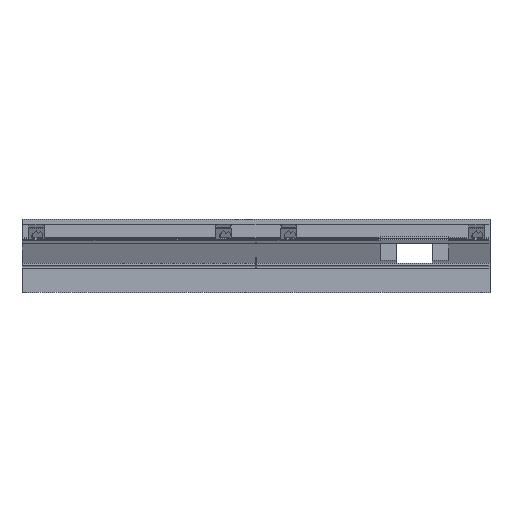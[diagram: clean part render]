
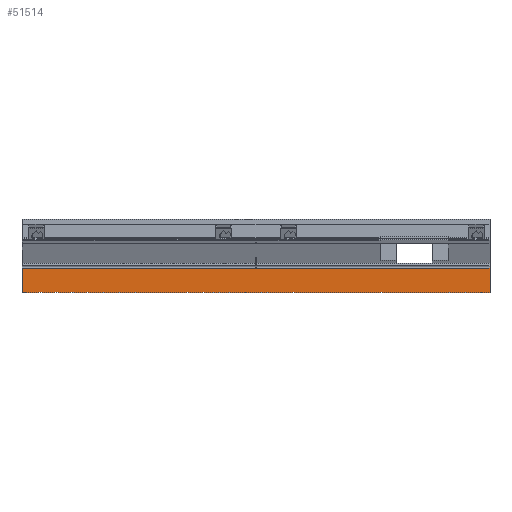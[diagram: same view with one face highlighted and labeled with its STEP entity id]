
A CAD part, front view. The second image highlights one B-rep face of the part: STEP entity #51514.
In plain terms, the highlighted planar face has unit normal (0, -1, 0).
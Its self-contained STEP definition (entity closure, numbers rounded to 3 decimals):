
#32 = PLANE('',#33);
#33 = AXIS2_PLACEMENT_3D('',#34,#35,#36);
#34 = CARTESIAN_POINT('',(-117.,101.,3.));
#35 = DIRECTION('',(1.,0.,-0.));
#36 = DIRECTION('',(0.,0.,1.));
#673 = VERTEX_POINT('',#674);
#674 = CARTESIAN_POINT('',(-117.,158.5,12.198));
#688 = PLANE('',#689);
#689 = AXIS2_PLACEMENT_3D('',#690,#691,#692);
#690 = CARTESIAN_POINT('',(-126.,155.33,10.719));
#691 = DIRECTION('',(0.,-0.423,0.906));
#692 = DIRECTION('',(0.,0.906,0.423));
#700 = EDGE_CURVE('',#701,#673,#703,.T.);
#701 = VERTEX_POINT('',#702);
#702 = CARTESIAN_POINT('',(-117.,158.5,0.));
#703 = SURFACE_CURVE('',#704,(#708,#715),.PCURVE_S1.);
#704 = LINE('',#705,#706);
#705 = CARTESIAN_POINT('',(-117.,158.5,0.));
#706 = VECTOR('',#707,1.);
#707 = DIRECTION('',(0.,0.,1.));
#708 = PCURVE('',#32,#709);
#709 = DEFINITIONAL_REPRESENTATION('',(#710),#714);
#710 = LINE('',#711,#712);
#711 = CARTESIAN_POINT('',(-3.,-57.5));
#712 = VECTOR('',#713,1.);
#713 = DIRECTION('',(1.,0.));
#714 = ( GEOMETRIC_REPRESENTATION_CONTEXT(2) 
PARAMETRIC_REPRESENTATION_CONTEXT() REPRESENTATION_CONTEXT('2D SPACE',''
  ) );
#715 = PCURVE('',#716,#721);
#716 = PLANE('',#717);
#717 = AXIS2_PLACEMENT_3D('',#718,#719,#720);
#718 = CARTESIAN_POINT('',(168.,158.5,3.));
#719 = DIRECTION('',(0.,-1.,0.));
#720 = DIRECTION('',(-1.,0.,0.));
#721 = DEFINITIONAL_REPRESENTATION('',(#722),#726);
#722 = LINE('',#723,#724);
#723 = CARTESIAN_POINT('',(285.,3.));
#724 = VECTOR('',#725,1.);
#725 = DIRECTION('',(0.,-1.));
#726 = ( GEOMETRIC_REPRESENTATION_CONTEXT(2) 
PARAMETRIC_REPRESENTATION_CONTEXT() REPRESENTATION_CONTEXT('2D SPACE',''
  ) );
#744 = PLANE('',#745);
#745 = AXIS2_PLACEMENT_3D('',#746,#747,#748);
#746 = CARTESIAN_POINT('',(0.,0.,0.));
#747 = DIRECTION('',(0.,0.,1.));
#748 = DIRECTION('',(1.,0.,-0.));
#936 = PLANE('',#937);
#937 = AXIS2_PLACEMENT_3D('',#938,#939,#940);
#938 = CARTESIAN_POINT('',(117.,101.,3.));
#939 = DIRECTION('',(1.,0.,-0.));
#940 = DIRECTION('',(0.,0.,1.));
#1614 = VERTEX_POINT('',#1615);
#1615 = CARTESIAN_POINT('',(117.,158.5,12.198));
#1629 = PLANE('',#1630);
#1630 = AXIS2_PLACEMENT_3D('',#1631,#1632,#1633);
#1631 = CARTESIAN_POINT('',(0.15,155.33,10.719));
#1632 = DIRECTION('',(0.,-0.423,0.906));
#1633 = DIRECTION('',(0.,0.906,0.423));
#1641 = EDGE_CURVE('',#1642,#1614,#1644,.T.);
#1642 = VERTEX_POINT('',#1643);
#1643 = CARTESIAN_POINT('',(117.,158.5,0.));
#1644 = SURFACE_CURVE('',#1645,(#1649,#1656),.PCURVE_S1.);
#1645 = LINE('',#1646,#1647);
#1646 = CARTESIAN_POINT('',(117.,158.5,0.));
#1647 = VECTOR('',#1648,1.);
#1648 = DIRECTION('',(0.,0.,1.));
#1649 = PCURVE('',#936,#1650);
#1650 = DEFINITIONAL_REPRESENTATION('',(#1651),#1655);
#1651 = LINE('',#1652,#1653);
#1652 = CARTESIAN_POINT('',(-3.,-57.5));
#1653 = VECTOR('',#1654,1.);
#1654 = DIRECTION('',(1.,0.));
#1655 = ( GEOMETRIC_REPRESENTATION_CONTEXT(2) 
PARAMETRIC_REPRESENTATION_CONTEXT() REPRESENTATION_CONTEXT('2D SPACE',''
  ) );
#1656 = PCURVE('',#716,#1657);
#1657 = DEFINITIONAL_REPRESENTATION('',(#1658),#1662);
#1658 = LINE('',#1659,#1660);
#1659 = CARTESIAN_POINT('',(51.,3.));
#1660 = VECTOR('',#1661,1.);
#1661 = DIRECTION('',(0.,-1.));
#1662 = ( GEOMETRIC_REPRESENTATION_CONTEXT(2) 
PARAMETRIC_REPRESENTATION_CONTEXT() REPRESENTATION_CONTEXT('2D SPACE',''
  ) );
#2040 = VERTEX_POINT('',#2041);
#2041 = CARTESIAN_POINT('',(0.15,158.5,12.198));
#2055 = PLANE('',#2056);
#2056 = AXIS2_PLACEMENT_3D('',#2057,#2058,#2059);
#2057 = CARTESIAN_POINT('',(0.15,163.532,14.544));
#2058 = DIRECTION('',(-1.,-0.,0.));
#2059 = DIRECTION('',(0.,-1.,-0.019));
#2067 = EDGE_CURVE('',#1614,#2040,#2068,.T.);
#2068 = SURFACE_CURVE('',#2069,(#2073,#2080),.PCURVE_S1.);
#2069 = LINE('',#2070,#2071);
#2070 = CARTESIAN_POINT('',(84.075,158.5,12.198));
#2071 = VECTOR('',#2072,1.);
#2072 = DIRECTION('',(-1.,0.,0.));
#2073 = PCURVE('',#1629,#2074);
#2074 = DEFINITIONAL_REPRESENTATION('',(#2075),#2079);
#2075 = LINE('',#2076,#2077);
#2076 = CARTESIAN_POINT('',(3.498,-83.925));
#2077 = VECTOR('',#2078,1.);
#2078 = DIRECTION('',(0.,1.));
#2079 = ( GEOMETRIC_REPRESENTATION_CONTEXT(2) 
PARAMETRIC_REPRESENTATION_CONTEXT() REPRESENTATION_CONTEXT('2D SPACE',''
  ) );
#2080 = PCURVE('',#716,#2081);
#2081 = DEFINITIONAL_REPRESENTATION('',(#2082),#2086);
#2082 = LINE('',#2083,#2084);
#2083 = CARTESIAN_POINT('',(83.925,-9.198));
#2084 = VECTOR('',#2085,1.);
#2085 = DIRECTION('',(1.,0.));
#2086 = ( GEOMETRIC_REPRESENTATION_CONTEXT(2) 
PARAMETRIC_REPRESENTATION_CONTEXT() REPRESENTATION_CONTEXT('2D SPACE',''
  ) );
#2212 = EDGE_CURVE('',#2213,#2040,#2215,.T.);
#2213 = VERTEX_POINT('',#2214);
#2214 = CARTESIAN_POINT('',(0.15,158.5,12.693));
#2215 = SURFACE_CURVE('',#2216,(#2220,#2227),.PCURVE_S1.);
#2216 = LINE('',#2217,#2218);
#2217 = CARTESIAN_POINT('',(0.15,158.5,8.772));
#2218 = VECTOR('',#2219,1.);
#2219 = DIRECTION('',(0.,-0.,-1.));
#2220 = PCURVE('',#2055,#2221);
#2221 = DEFINITIONAL_REPRESENTATION('',(#2222),#2226);
#2222 = LINE('',#2223,#2224);
#2223 = CARTESIAN_POINT('',(5.142,-5.674));
#2224 = VECTOR('',#2225,1.);
#2225 = DIRECTION('',(0.019,-1.));
#2226 = ( GEOMETRIC_REPRESENTATION_CONTEXT(2) 
PARAMETRIC_REPRESENTATION_CONTEXT() REPRESENTATION_CONTEXT('2D SPACE',''
  ) );
#2227 = PCURVE('',#716,#2228);
#2228 = DEFINITIONAL_REPRESENTATION('',(#2229),#2233);
#2229 = LINE('',#2230,#2231);
#2230 = CARTESIAN_POINT('',(167.85,-5.772));
#2231 = VECTOR('',#2232,1.);
#2232 = DIRECTION('',(0.,1.));
#2233 = ( GEOMETRIC_REPRESENTATION_CONTEXT(2) 
PARAMETRIC_REPRESENTATION_CONTEXT() REPRESENTATION_CONTEXT('2D SPACE',''
  ) );
#2251 = PLANE('',#2252);
#2252 = AXIS2_PLACEMENT_3D('',#2253,#2254,#2255);
#2253 = CARTESIAN_POINT('',(-128.,147.295,-5.852));
#2254 = DIRECTION('',(0.,-0.856,0.517));
#2255 = DIRECTION('',(0.,0.517,0.856));
#2499 = PLANE('',#2500);
#2500 = AXIS2_PLACEMENT_3D('',#2501,#2502,#2503);
#2501 = CARTESIAN_POINT('',(-0.15,163.532,14.544));
#2502 = DIRECTION('',(-1.,-0.,0.));
#2503 = DIRECTION('',(0.,-1.,-0.019));
#2652 = VERTEX_POINT('',#2653);
#2653 = CARTESIAN_POINT('',(-0.15,158.5,12.198));
#2674 = EDGE_CURVE('',#2675,#2652,#2677,.T.);
#2675 = VERTEX_POINT('',#2676);
#2676 = CARTESIAN_POINT('',(-0.15,158.5,12.693));
#2677 = SURFACE_CURVE('',#2678,(#2682,#2689),.PCURVE_S1.);
#2678 = LINE('',#2679,#2680);
#2679 = CARTESIAN_POINT('',(-0.15,158.5,8.772));
#2680 = VECTOR('',#2681,1.);
#2681 = DIRECTION('',(0.,-0.,-1.));
#2682 = PCURVE('',#2499,#2683);
#2683 = DEFINITIONAL_REPRESENTATION('',(#2684),#2688);
#2684 = LINE('',#2685,#2686);
#2685 = CARTESIAN_POINT('',(5.142,-5.674));
#2686 = VECTOR('',#2687,1.);
#2687 = DIRECTION('',(0.019,-1.));
#2688 = ( GEOMETRIC_REPRESENTATION_CONTEXT(2) 
PARAMETRIC_REPRESENTATION_CONTEXT() REPRESENTATION_CONTEXT('2D SPACE',''
  ) );
#2689 = PCURVE('',#716,#2690);
#2690 = DEFINITIONAL_REPRESENTATION('',(#2691),#2695);
#2691 = LINE('',#2692,#2693);
#2692 = CARTESIAN_POINT('',(168.15,-5.772));
#2693 = VECTOR('',#2694,1.);
#2694 = DIRECTION('',(0.,1.));
#2695 = ( GEOMETRIC_REPRESENTATION_CONTEXT(2) 
PARAMETRIC_REPRESENTATION_CONTEXT() REPRESENTATION_CONTEXT('2D SPACE',''
  ) );
#3010 = EDGE_CURVE('',#2213,#2675,#3011,.T.);
#3011 = SURFACE_CURVE('',#3012,(#3016,#3023),.PCURVE_S1.);
#3012 = LINE('',#3013,#3014);
#3013 = CARTESIAN_POINT('',(20.,158.5,12.693));
#3014 = VECTOR('',#3015,1.);
#3015 = DIRECTION('',(-1.,0.,0.));
#3016 = PCURVE('',#2251,#3017);
#3017 = DEFINITIONAL_REPRESENTATION('',(#3018),#3022);
#3018 = LINE('',#3019,#3020);
#3019 = CARTESIAN_POINT('',(21.667,-148.));
#3020 = VECTOR('',#3021,1.);
#3021 = DIRECTION('',(0.,1.));
#3022 = ( GEOMETRIC_REPRESENTATION_CONTEXT(2) 
PARAMETRIC_REPRESENTATION_CONTEXT() REPRESENTATION_CONTEXT('2D SPACE',''
  ) );
#3023 = PCURVE('',#716,#3024);
#3024 = DEFINITIONAL_REPRESENTATION('',(#3025),#3029);
#3025 = LINE('',#3026,#3027);
#3026 = CARTESIAN_POINT('',(148.,-9.693));
#3027 = VECTOR('',#3028,1.);
#3028 = DIRECTION('',(1.,0.));
#3029 = ( GEOMETRIC_REPRESENTATION_CONTEXT(2) 
PARAMETRIC_REPRESENTATION_CONTEXT() REPRESENTATION_CONTEXT('2D SPACE',''
  ) );
#51490 = EDGE_CURVE('',#1642,#701,#51491,.T.);
#51491 = SURFACE_CURVE('',#51492,(#51496,#51502),.PCURVE_S1.);
#51492 = LINE('',#51493,#51494);
#51493 = CARTESIAN_POINT('',(84.,158.5,0.));
#51494 = VECTOR('',#51495,1.);
#51495 = DIRECTION('',(-1.,0.,0.));
#51496 = PCURVE('',#744,#51497);
#51497 = DEFINITIONAL_REPRESENTATION('',(#51498),#51501);
#51498 = B_SPLINE_CURVE_WITH_KNOTS('',1,(#51499,#51500),.UNSPECIFIED.,
  .F.,.F.,(2,2),(-33.,201.),.PIECEWISE_BEZIER_KNOTS.);
#51499 = CARTESIAN_POINT('',(117.,158.5));
#51500 = CARTESIAN_POINT('',(-117.,158.5));
#51501 = ( GEOMETRIC_REPRESENTATION_CONTEXT(2) 
PARAMETRIC_REPRESENTATION_CONTEXT() REPRESENTATION_CONTEXT('2D SPACE',''
  ) );
#51502 = PCURVE('',#716,#51503);
#51503 = DEFINITIONAL_REPRESENTATION('',(#51504),#51508);
#51504 = LINE('',#51505,#51506);
#51505 = CARTESIAN_POINT('',(84.,3.));
#51506 = VECTOR('',#51507,1.);
#51507 = DIRECTION('',(1.,0.));
#51508 = ( GEOMETRIC_REPRESENTATION_CONTEXT(2) 
PARAMETRIC_REPRESENTATION_CONTEXT() REPRESENTATION_CONTEXT('2D SPACE',''
  ) );
#51514 = ADVANCED_FACE('',(#51515),#716,.T.);
#51515 = FACE_BOUND('',#51516,.T.);
#51516 = EDGE_LOOP('',(#51517,#51518,#51519,#51520,#51541,#51542,#51543,
    #51544));
#51517 = ORIENTED_EDGE('',*,*,#2212,.F.);
#51518 = ORIENTED_EDGE('',*,*,#3010,.T.);
#51519 = ORIENTED_EDGE('',*,*,#2674,.T.);
#51520 = ORIENTED_EDGE('',*,*,#51521,.T.);
#51521 = EDGE_CURVE('',#2652,#673,#51522,.T.);
#51522 = SURFACE_CURVE('',#51523,(#51527,#51534),.PCURVE_S1.);
#51523 = LINE('',#51524,#51525);
#51524 = CARTESIAN_POINT('',(21.,158.5,12.198));
#51525 = VECTOR('',#51526,1.);
#51526 = DIRECTION('',(-1.,0.,0.));
#51527 = PCURVE('',#716,#51528);
#51528 = DEFINITIONAL_REPRESENTATION('',(#51529),#51533);
#51529 = LINE('',#51530,#51531);
#51530 = CARTESIAN_POINT('',(147.,-9.198));
#51531 = VECTOR('',#51532,1.);
#51532 = DIRECTION('',(1.,0.));
#51533 = ( GEOMETRIC_REPRESENTATION_CONTEXT(2) 
PARAMETRIC_REPRESENTATION_CONTEXT() REPRESENTATION_CONTEXT('2D SPACE',''
  ) );
#51534 = PCURVE('',#688,#51535);
#51535 = DEFINITIONAL_REPRESENTATION('',(#51536),#51540);
#51536 = LINE('',#51537,#51538);
#51537 = CARTESIAN_POINT('',(3.498,-147.));
#51538 = VECTOR('',#51539,1.);
#51539 = DIRECTION('',(0.,1.));
#51540 = ( GEOMETRIC_REPRESENTATION_CONTEXT(2) 
PARAMETRIC_REPRESENTATION_CONTEXT() REPRESENTATION_CONTEXT('2D SPACE',''
  ) );
#51541 = ORIENTED_EDGE('',*,*,#700,.F.);
#51542 = ORIENTED_EDGE('',*,*,#51490,.F.);
#51543 = ORIENTED_EDGE('',*,*,#1641,.T.);
#51544 = ORIENTED_EDGE('',*,*,#2067,.T.);
